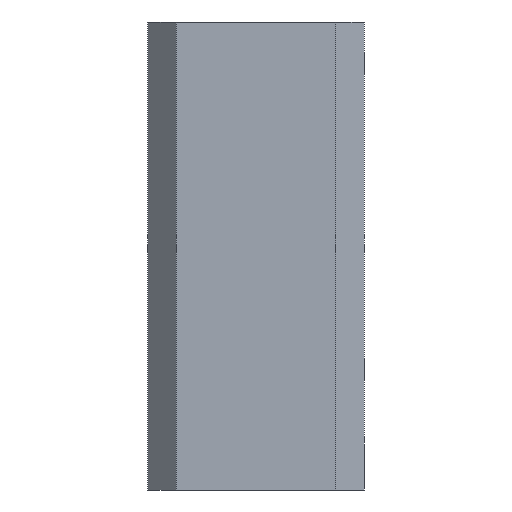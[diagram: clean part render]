
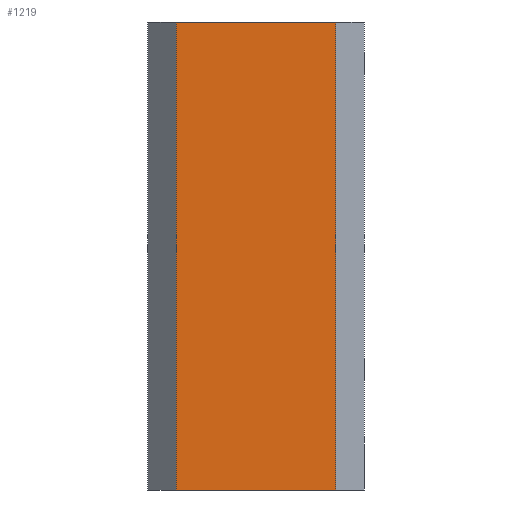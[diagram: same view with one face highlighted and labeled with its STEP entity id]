
A CAD part, left-side view. The second image highlights one B-rep face of the part: STEP entity #1219.
In plain terms, the highlighted planar face has unit normal (-1, 0, 0).
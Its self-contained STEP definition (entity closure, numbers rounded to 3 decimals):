
#221=CARTESIAN_POINT('Vertex',(-57.035,-11.914,-113.)) ;
#224=CARTESIAN_POINT('Line Origine',(-57.035,7.307,-113.)) ;
#228=CARTESIAN_POINT('Vertex',(-57.035,26.528,-113.)) ;
#454=CARTESIAN_POINT('Vertex',(-57.035,-11.914,0.)) ;
#457=CARTESIAN_POINT('Line Origine',(-57.035,-11.914,-56.5)) ;
#1196=CARTESIAN_POINT('Axis2P3D Location',(-57.035,-11.914,0.)) ;
#1201=CARTESIAN_POINT('Line Origine',(-57.035,7.307,0.)) ;
#1205=CARTESIAN_POINT('Vertex',(-57.035,26.528,0.)) ;
#1208=CARTESIAN_POINT('Line Origine',(-57.035,26.528,-56.5)) ;
#225=DIRECTION('Vector Direction',(0.,1.,0.)) ;
#458=DIRECTION('Vector Direction',(0.,0.,-1.)) ;
#1197=DIRECTION('Axis2P3D Direction',(-1.,0.,0.)) ;
#1198=DIRECTION('Axis2P3D XDirection',(0.,1.,0.)) ;
#1202=DIRECTION('Vector Direction',(0.,1.,0.)) ;
#1209=DIRECTION('Vector Direction',(0.,0.,-1.)) ;
#1199=AXIS2_PLACEMENT_3D('Plane Axis2P3D',#1196,#1197,#1198) ;
#1214=ORIENTED_EDGE('',*,*,#230,.T.) ;
#1215=ORIENTED_EDGE('',*,*,#461,.F.) ;
#1216=ORIENTED_EDGE('',*,*,#1207,.F.) ;
#1217=ORIENTED_EDGE('',*,*,#1212,.T.) ;
#226=VECTOR('Line Direction',#225,1.) ;
#459=VECTOR('Line Direction',#458,1.) ;
#1203=VECTOR('Line Direction',#1202,1.) ;
#1210=VECTOR('Line Direction',#1209,1.) ;
#1219=ADVANCED_FACE('Corps principal',(#1218),#1200,.T.) ;
#230=EDGE_CURVE('',#229,#222,#227,.F.) ;
#461=EDGE_CURVE('',#455,#222,#460,.T.) ;
#1207=EDGE_CURVE('',#1206,#455,#1204,.F.) ;
#1212=EDGE_CURVE('',#1206,#229,#1211,.T.) ;
#1213=EDGE_LOOP('',(#1214,#1215,#1216,#1217)) ;
#1218=FACE_OUTER_BOUND('',#1213,.T.) ;
#227=LINE('Line',#224,#226) ;
#460=LINE('Line',#457,#459) ;
#1204=LINE('Line',#1201,#1203) ;
#1211=LINE('Line',#1208,#1210) ;
#1200=PLANE('Plane',#1199) ;
#222=VERTEX_POINT('',#221) ;
#229=VERTEX_POINT('',#228) ;
#455=VERTEX_POINT('',#454) ;
#1206=VERTEX_POINT('',#1205) ;
